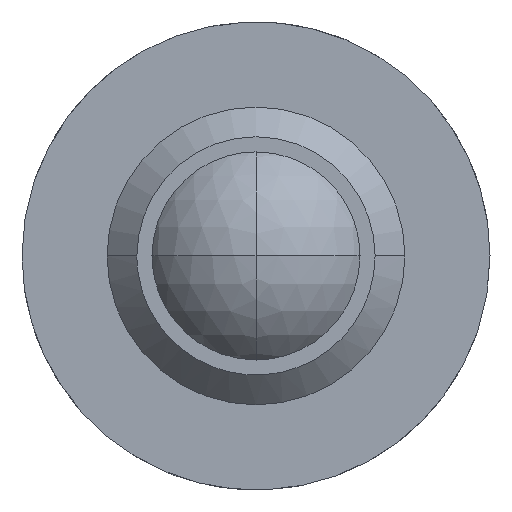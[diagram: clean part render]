
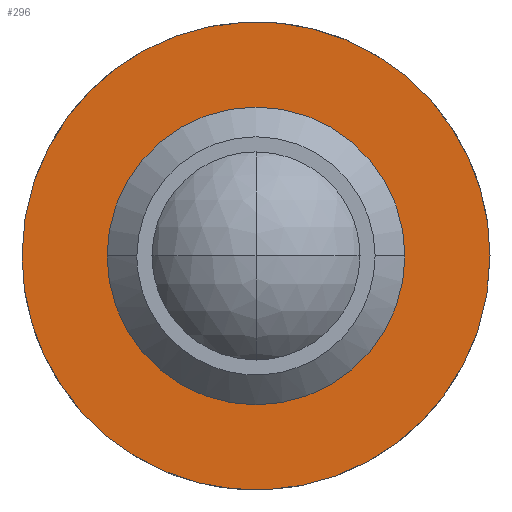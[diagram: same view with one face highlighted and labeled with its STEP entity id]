
A CAD part, top view. The second image highlights one B-rep face of the part: STEP entity #296.
In plain terms, the highlighted planar face has unit normal (0, 0, 1).
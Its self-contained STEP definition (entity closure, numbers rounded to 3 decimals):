
#70=CARTESIAN_POINT('Vertex',(17.5,0.,4.)) ;
#73=CARTESIAN_POINT('Axis2P3D Location',(0.,0.,4.)) ;
#77=CARTESIAN_POINT('Vertex',(-17.5,0.,4.)) ;
#215=CARTESIAN_POINT('Axis2P3D Location',(0.,0.,4.)) ;
#227=CARTESIAN_POINT('Axis2P3D Location',(-17.5,0.,4.)) ;
#233=CARTESIAN_POINT('Control Point',(-27.5,0.,4.)) ;
#234=CARTESIAN_POINT('Control Point',(-27.5,2.569,4.)) ;
#235=CARTESIAN_POINT('Control Point',(-27.2,5.138,4.)) ;
#236=CARTESIAN_POINT('Control Point',(-26.6,7.66,4.)) ;
#237=CARTESIAN_POINT('Control Point',(-24.822,12.518,4.)) ;
#238=CARTESIAN_POINT('Control Point',(-21.973,16.836,4.)) ;
#239=CARTESIAN_POINT('Control Point',(-20.301,18.818,4.)) ;
#240=CARTESIAN_POINT('Control Point',(-16.526,22.355,4.)) ;
#241=CARTESIAN_POINT('Control Point',(-12.038,24.927,4.)) ;
#242=CARTESIAN_POINT('Control Point',(-9.653,25.943,4.)) ;
#243=CARTESIAN_POINT('Control Point',(-4.69,27.402,4.)) ;
#244=CARTESIAN_POINT('Control Point',(0.476,27.677,4.)) ;
#245=CARTESIAN_POINT('Control Point',(3.064,27.511,4.)) ;
#246=CARTESIAN_POINT('Control Point',(8.152,26.578,4.)) ;
#247=CARTESIAN_POINT('Control Point',(12.888,24.498,4.)) ;
#248=CARTESIAN_POINT('Control Point',(15.124,23.184,4.)) ;
#249=CARTESIAN_POINT('Control Point',(19.247,20.06,4.)) ;
#250=CARTESIAN_POINT('Control Point',(22.539,16.07,4.)) ;
#251=CARTESIAN_POINT('Control Point',(23.943,13.891,4.)) ;
#252=CARTESIAN_POINT('Control Point',(25.906,9.882,4.)) ;
#253=CARTESIAN_POINT('Control Point',(27.026,5.576,4.)) ;
#254=CARTESIAN_POINT('Control Point',(27.342,3.729,4.)) ;
#255=CARTESIAN_POINT('Control Point',(27.5,1.864,4.)) ;
#256=CARTESIAN_POINT('Control Point',(27.5,0.,4.)) ;
#257=CARTESIAN_POINT('Vertex',(-27.5,0.,4.)) ;
#259=CARTESIAN_POINT('Vertex',(27.5,0.,4.)) ;
#263=CARTESIAN_POINT('Control Point',(27.5,0.,4.)) ;
#264=CARTESIAN_POINT('Control Point',(27.5,-2.569,4.)) ;
#265=CARTESIAN_POINT('Control Point',(27.2,-5.138,4.)) ;
#266=CARTESIAN_POINT('Control Point',(26.6,-7.66,4.)) ;
#267=CARTESIAN_POINT('Control Point',(24.822,-12.518,4.)) ;
#268=CARTESIAN_POINT('Control Point',(21.973,-16.836,4.)) ;
#269=CARTESIAN_POINT('Control Point',(20.301,-18.818,4.)) ;
#270=CARTESIAN_POINT('Control Point',(16.526,-22.355,4.)) ;
#271=CARTESIAN_POINT('Control Point',(12.038,-24.927,4.)) ;
#272=CARTESIAN_POINT('Control Point',(9.653,-25.943,4.)) ;
#273=CARTESIAN_POINT('Control Point',(4.69,-27.402,4.)) ;
#274=CARTESIAN_POINT('Control Point',(-0.476,-27.677,4.)) ;
#275=CARTESIAN_POINT('Control Point',(-3.064,-27.511,4.)) ;
#276=CARTESIAN_POINT('Control Point',(-8.152,-26.578,4.)) ;
#277=CARTESIAN_POINT('Control Point',(-12.888,-24.498,4.)) ;
#278=CARTESIAN_POINT('Control Point',(-15.124,-23.184,4.)) ;
#279=CARTESIAN_POINT('Control Point',(-19.247,-20.06,4.)) ;
#280=CARTESIAN_POINT('Control Point',(-22.539,-16.07,4.)) ;
#281=CARTESIAN_POINT('Control Point',(-23.943,-13.891,4.)) ;
#282=CARTESIAN_POINT('Control Point',(-25.906,-9.882,4.)) ;
#283=CARTESIAN_POINT('Control Point',(-27.026,-5.576,4.)) ;
#284=CARTESIAN_POINT('Control Point',(-27.342,-3.729,4.)) ;
#285=CARTESIAN_POINT('Control Point',(-27.5,-1.864,4.)) ;
#286=CARTESIAN_POINT('Control Point',(-27.5,0.,4.)) ;
#74=DIRECTION('Axis2P3D Direction',(0.,0.,-1.)) ;
#216=DIRECTION('Axis2P3D Direction',(0.,0.,-1.)) ;
#228=DIRECTION('Axis2P3D Direction',(0.,0.,1.)) ;
#229=DIRECTION('Axis2P3D XDirection',(1.,0.,0.)) ;
#75=AXIS2_PLACEMENT_3D('Circle Axis2P3D',#73,#74,$) ;
#217=AXIS2_PLACEMENT_3D('Circle Axis2P3D',#215,#216,$) ;
#230=AXIS2_PLACEMENT_3D('Plane Axis2P3D',#227,#228,#229) ;
#289=ORIENTED_EDGE('',*,*,#261,.F.) ;
#290=ORIENTED_EDGE('',*,*,#287,.F.) ;
#293=ORIENTED_EDGE('',*,*,#79,.T.) ;
#294=ORIENTED_EDGE('',*,*,#219,.T.) ;
#295=FACE_BOUND('',#292,.T.) ;
#296=ADVANCED_FACE('NONE',(#291,#295),#231,.T.) ;
#232=B_SPLINE_CURVE_WITH_KNOTS('',5,(#233,#234,#235,#236,#237,#238,#239,#240,#241,#242,#243,#244,#245,#246,#247,#248,#249,#250,#251,#252,#253,#254,#255,#256),.UNSPECIFIED.,.F.,.U.,(6,3,3,3,3,3,3,6),(0.,18.166,36.331,54.497,72.663,90.829,108.994,122.178),.UNSPECIFIED.) ;
#262=B_SPLINE_CURVE_WITH_KNOTS('',5,(#263,#264,#265,#266,#267,#268,#269,#270,#271,#272,#273,#274,#275,#276,#277,#278,#279,#280,#281,#282,#283,#284,#285,#286),.UNSPECIFIED.,.F.,.U.,(6,3,3,3,3,3,3,6),(0.,18.166,36.331,54.497,72.663,90.829,108.994,122.178),.UNSPECIFIED.) ;
#76=CIRCLE('generated circle',#75,17.5) ;
#218=CIRCLE('generated circle',#217,17.5) ;
#79=EDGE_CURVE('',#78,#71,#76,.T.) ;
#219=EDGE_CURVE('',#71,#78,#218,.T.) ;
#261=EDGE_CURVE('',#258,#260,#232,.T.) ;
#287=EDGE_CURVE('',#260,#258,#262,.T.) ;
#288=EDGE_LOOP('',(#289,#290)) ;
#292=EDGE_LOOP('',(#293,#294)) ;
#291=FACE_OUTER_BOUND('',#288,.T.) ;
#231=PLANE('Plane',#230) ;
#71=VERTEX_POINT('',#70) ;
#78=VERTEX_POINT('',#77) ;
#258=VERTEX_POINT('',#257) ;
#260=VERTEX_POINT('',#259) ;
